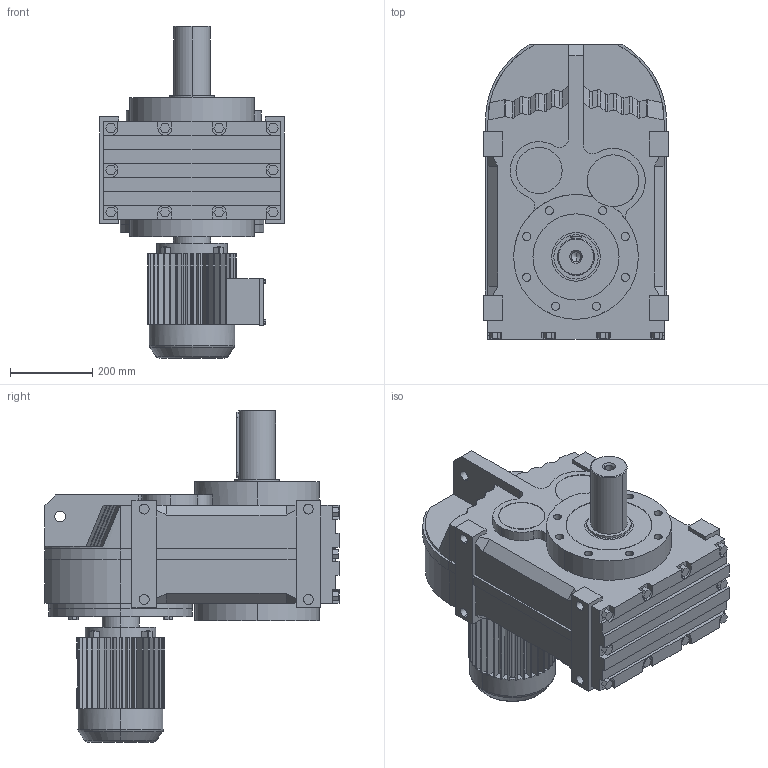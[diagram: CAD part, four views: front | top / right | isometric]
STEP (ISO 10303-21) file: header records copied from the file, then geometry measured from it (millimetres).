
FILE_DESCRIPTION(('Open CASCADE Model'),'2;1');
FILE_NAME('Open CASCADE Shape Model','2018-09-11T15:24:30',('Author'),( 'Open CASCADE'),'Open CASCADE STEP processor 6.3','Open CASCADE 6.3' ,'Unknown');
FILE_SCHEMA(('AUTOMOTIVE_DESIGN_CC2 { 1 2 10303 214 -1 1 5 4 }'));
Length unit declared in the file: millimetre
Products named in the file (4): 1_F107-Y100M; FA27‵157_107.step; 萇儂_350_Y100M.step; す瑩妗陑粣F_107.step
Assembly tree (3 placements, depth 2):
  1_F107-Y100M
    FA27‵157_107.step
    萇儂_350_Y100M.step
    す瑩妗陑粣F_107.step
Bounding box: 450 x 717 x 809 mm (x, y, z)
Volume: 88015278.7 mm3; surface area: 2364045.8 mm2
Topology: 3 solids, 3 shells, 784 faces, 2070 edges, 1346 vertices
Faces by surface type: plane 558, cylinder 198, bspline 16, cone 8, torus 4
Entity records: 53138 total; most frequent: CARTESIAN_POINT 13526, DIRECTION 6913, ORIENTED_EDGE 4136, PCURVE 4136, DEFINITIONAL_REPRESENTATION 4136, LINE 3893, VECTOR 3893, EDGE_CURVE 2068
